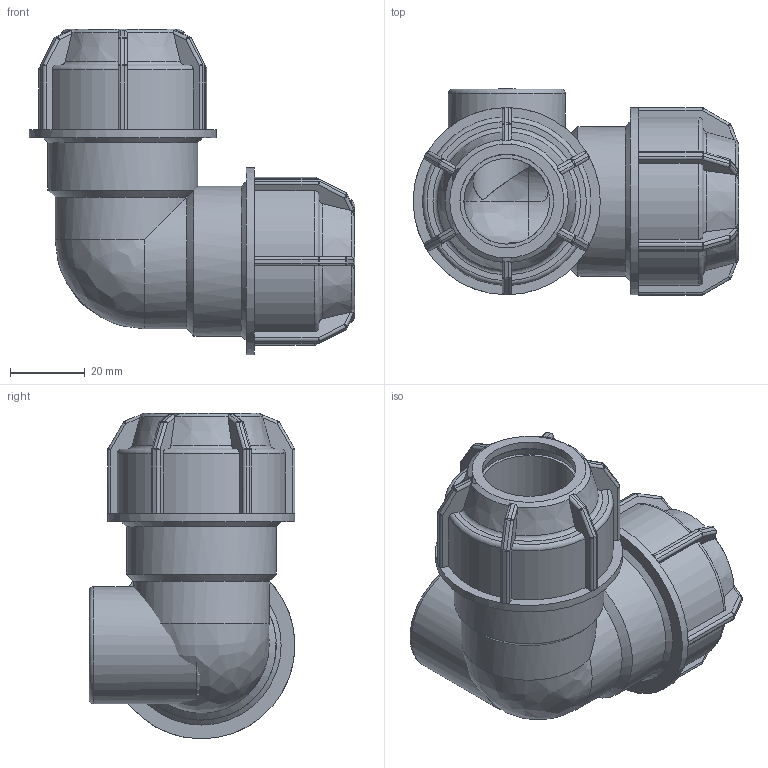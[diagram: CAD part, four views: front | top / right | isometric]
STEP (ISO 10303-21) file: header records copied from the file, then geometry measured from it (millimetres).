
FILE_DESCRIPTION(/* description */ ('PLASSON L.14 CORNER TEE ELBOW FEMALE (SILVER) 25-3/4"-25'),/* implementation_level */ '2;1');
FILE_NAME(/* name */ 'C:\Dropbox\KIMPROJECTS-Inventor\99-16-3568-Processing\Silver+MF ISRAEL\146500\146500025007.ipt.stp',/* time_stamp */ '2018-04-09T13:05:16+03:00',/* author */ ('KIM'),/* organization */ (''),/* preprocessor_version */ 'ST-DEVELOPER v15.6',/* originating_system */ 'Autodesk Inventor 2015',/* authorisation */ '');
FILE_SCHEMA (('AUTOMOTIVE_DESIGN { 1 0 10303 214 3 1 1 }'));
Length unit declared in the file: millimetre
Products named in the file (1): 146500025007
Bounding box: 87 x 55 x 87 mm (x, y, z)
Volume: 105356.2 mm3; surface area: 35124.5 mm2
Topology: 2 solids, 2 shells, 422 faces, 999 edges, 576 vertices
Faces by surface type: plane 196, cylinder 127, sphere 48, torus 30, cone 18, bspline 3
Full cylindrical faces by diameter (mm): 18.088 x2, 22.911 x2, 24.117 x1, 25 x4, 31.352 x1, 40 x2, 50 x2
Entity records: 12455 total; most frequent: CARTESIAN_POINT 3353, DIRECTION 1910, ORIENTED_EDGE 1880, EDGE_CURVE 940, AXIS2_PLACEMENT_3D 774, VERTEX_POINT 554, EDGE_LOOP 452, FACE_OUTER_BOUND 418
